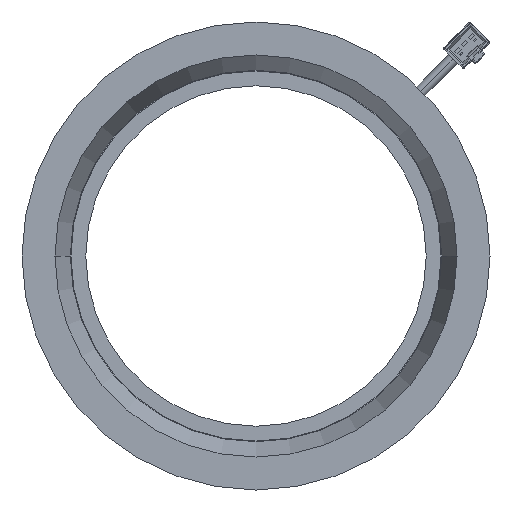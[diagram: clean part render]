
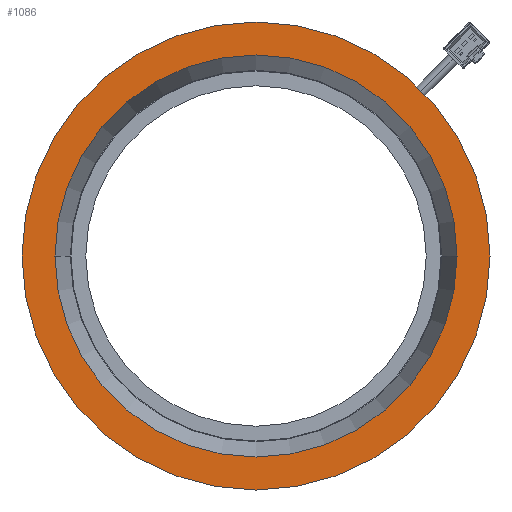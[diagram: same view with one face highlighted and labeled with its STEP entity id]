
A CAD part, front view. The second image highlights one B-rep face of the part: STEP entity #1086.
In plain terms, the highlighted planar face has unit normal (0, -1, 0).
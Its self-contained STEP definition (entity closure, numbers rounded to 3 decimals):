
#289=CARTESIAN_POINT('',(0.,-22.,0.));
#290=DIRECTION('',(0.,1.,0.));
#291=DIRECTION('',(1.,0.,0.));
#292=AXIS2_PLACEMENT_3D('',#289,#290,#291);
#294=CARTESIAN_POINT('',(0.,-22.,0.));
#295=DIRECTION('',(0.,1.,0.));
#296=DIRECTION('',(-1.,0.,0.));
#297=AXIS2_PLACEMENT_3D('',#294,#295,#296);
#299=CARTESIAN_POINT('',(0.,-22.,0.));
#300=DIRECTION('',(0.,-1.,0.));
#301=DIRECTION('',(1.,0.,0.));
#302=AXIS2_PLACEMENT_3D('',#299,#300,#301);
#304=CARTESIAN_POINT('',(0.,-22.,0.));
#305=DIRECTION('',(0.,-1.,0.));
#306=DIRECTION('',(-1.,0.,0.));
#307=AXIS2_PLACEMENT_3D('',#304,#305,#306);
#589=CARTESIAN_POINT('',(-66.,-22.,0.));
#590=VERTEX_POINT('',#589);
#591=CARTESIAN_POINT('',(66.,-22.,0.));
#592=VERTEX_POINT('',#591);
#593=CARTESIAN_POINT('',(56.704,-22.,0.));
#594=CARTESIAN_POINT('',(-56.704,-22.,0.));
#595=VERTEX_POINT('',#593);
#596=VERTEX_POINT('',#594);
#1071=CARTESIAN_POINT('',(0.,-22.,0.));
#1072=DIRECTION('',(0.,1.,0.));
#1073=DIRECTION('',(1.,0.,0.));
#1074=AXIS2_PLACEMENT_3D('',#1071,#1072,#1073);
#1075=PLANE('',#1074);
#1076=ORIENTED_EDGE('',*,*,#1064,.T.);
#1077=ORIENTED_EDGE('',*,*,#1053,.T.);
#1078=EDGE_LOOP('',(#1076,#1077));
#1079=FACE_OUTER_BOUND('',#1078,.F.);
#1081=ORIENTED_EDGE('',*,*,#1080,.T.);
#1083=ORIENTED_EDGE('',*,*,#1082,.T.);
#1084=EDGE_LOOP('',(#1081,#1083));
#1085=FACE_BOUND('',#1084,.F.);
#293=CIRCLE('',#292,66.);
#298=CIRCLE('',#297,66.);
#303=CIRCLE('',#302,56.704);
#308=CIRCLE('',#307,56.704);
#1053=EDGE_CURVE('',#590,#592,#298,.T.);
#1064=EDGE_CURVE('',#592,#590,#293,.T.);
#1080=EDGE_CURVE('',#595,#596,#303,.T.);
#1082=EDGE_CURVE('',#596,#595,#308,.T.);
#1086=ADVANCED_FACE('',(#1079,#1085),#1075,.F.);
